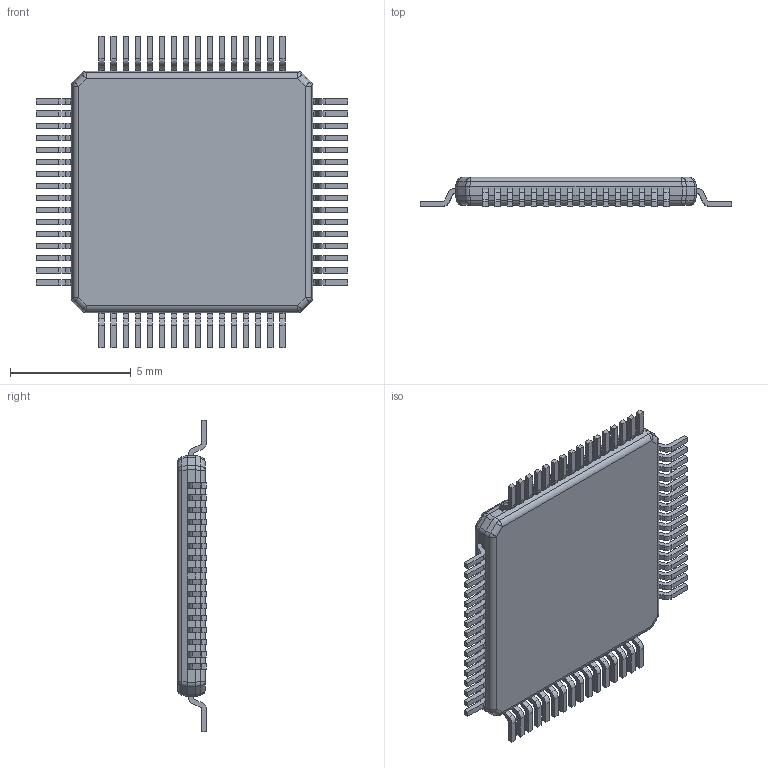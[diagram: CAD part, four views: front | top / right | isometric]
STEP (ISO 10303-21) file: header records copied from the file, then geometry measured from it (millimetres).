
FILE_DESCRIPTION (( 'STEP AP214' ), '1' );
FILE_NAME ( 'QFP50P1290X1290X120-64L25.STEP', '2014-04-11T12:31:20', ( '' ), ( '' ), 'FPX Expert 2013', 'PCB Libraries', '' );
FILE_SCHEMA (( 'AUTOMOTIVE_DESIGN' ));
Length unit declared in the file: millimetre
Products named in the file (1): QFP50P1290X1290X120-64L25
Bounding box: 12.9 x 1.2 x 12.9 mm (x, y, z)
Volume: 117.1 mm3; surface area: 331.5 mm2
Topology: 65 solids, 65 shells, 983 faces, 2522 edges, 1654 vertices
Faces by surface type: plane 667, cylinder 298, sphere 16, torus 2
Entity records: 33055 total; most frequent: CARTESIAN_POINT 5288, ORIENTED_EDGE 5012, DIRECTION 4994, EDGE_CURVE 2506, VECTOR 1890, LINE 1890, VERTEX_POINT 1654, AXIS2_PLACEMENT_3D 1552
